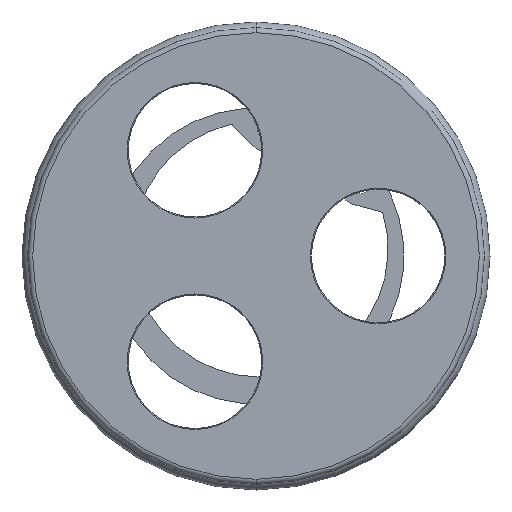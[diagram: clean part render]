
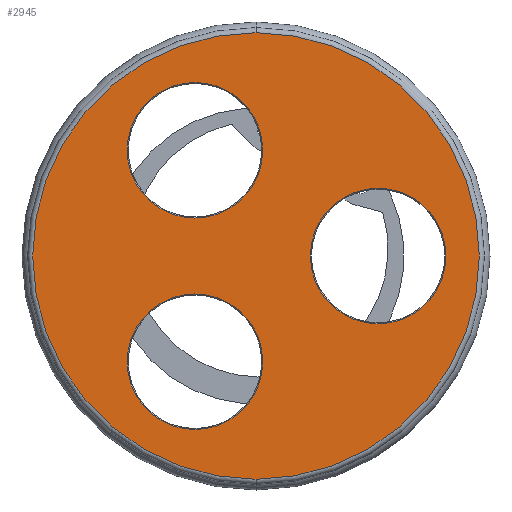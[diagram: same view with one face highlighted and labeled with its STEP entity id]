
A CAD part, front view. The second image highlights one B-rep face of the part: STEP entity #2945.
In plain terms, the highlighted planar face has unit normal (0, -1, 0).
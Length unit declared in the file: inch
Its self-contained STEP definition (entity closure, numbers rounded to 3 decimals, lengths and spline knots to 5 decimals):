
#21 = EDGE_LOOP ( 'NONE', ( #1878, #686 ) ) ;
#327 = ORIENTED_EDGE ( 'NONE', *, *, #2652, .T. ) ;
#336 = DIRECTION ( 'NONE',  ( 0., 0., 1. ) ) ;
#367 = CARTESIAN_POINT ( 'NONE',  ( 0., 0., -1.097 ) ) ;
#388 = CIRCLE ( 'NONE', #2034, 0.333 ) ;
#478 = EDGE_LOOP ( 'NONE', ( #2899, #327 ) ) ;
#495 = CIRCLE ( 'NONE', #3279, 0.333 ) ;
#523 = EDGE_CURVE ( 'NONE', #1397, #2032, #1524, .T. ) ;
#614 = EDGE_CURVE ( 'NONE', #1118, #1824, #2603, .T. ) ;
#673 = DIRECTION ( 'NONE',  ( 0., 0., 1. ) ) ;
#686 = ORIENTED_EDGE ( 'NONE', *, *, #3350, .T. ) ;
#696 = DIRECTION ( 'NONE',  ( 0., -1., 0. ) ) ;
#716 = CIRCLE ( 'NONE', #2226, 0.333 ) ;
#782 = EDGE_CURVE ( 'NONE', #3242, #3554, #3267, .T. ) ;
#804 = DIRECTION ( 'NONE',  ( 0., 1., 0. ) ) ;
#889 = FACE_BOUND ( 'NONE', #478, .T. ) ;
#919 = CARTESIAN_POINT ( 'NONE',  ( -0.3, 0., -0.18662 ) ) ;
#929 = FACE_BOUND ( 'NONE', #2126, .T. ) ;
#966 = DIRECTION ( 'NONE',  ( 0., 0., 1. ) ) ;
#977 = CARTESIAN_POINT ( 'NONE',  ( 0.6, 0., 0.333 ) ) ;
#978 = CIRCLE ( 'NONE', #2135, 0.333 ) ;
#985 = DIRECTION ( 'NONE',  ( 0., 0., 1. ) ) ;
#1005 = ORIENTED_EDGE ( 'NONE', *, *, #1032, .T. ) ;
#1032 = EDGE_CURVE ( 'NONE', #1824, #1118, #495, .T. ) ;
#1118 = VERTEX_POINT ( 'NONE', #2500 ) ;
#1241 = CARTESIAN_POINT ( 'NONE',  ( 0., 0., 1.097 ) ) ;
#1242 = ORIENTED_EDGE ( 'NONE', *, *, #1993, .T. ) ;
#1332 = PLANE ( 'NONE',  #2692 ) ;
#1397 = VERTEX_POINT ( 'NONE', #1241 ) ;
#1484 = DIRECTION ( 'NONE',  ( 0., 1., 0. ) ) ;
#1517 = CARTESIAN_POINT ( 'NONE',  ( 0.6, 0., 0. ) ) ;
#1524 = CIRCLE ( 'NONE', #2658, 1.097 ) ;
#1756 = AXIS2_PLACEMENT_3D ( 'NONE', #2845, #2588, #336 ) ;
#1820 = CARTESIAN_POINT ( 'NONE',  ( 0., 0., 0. ) ) ;
#1824 = VERTEX_POINT ( 'NONE', #919 ) ;
#1861 = FACE_BOUND ( 'NONE', #3423, .T. ) ;
#1878 = ORIENTED_EDGE ( 'NONE', *, *, #523, .T. ) ;
#1944 = CARTESIAN_POINT ( 'NONE',  ( 0., 0., 0. ) ) ;
#1946 = DIRECTION ( 'NONE',  ( 0., 0., 1. ) ) ;
#1962 = CARTESIAN_POINT ( 'NONE',  ( -0.3, 0., -0.51962 ) ) ;
#1979 = EDGE_CURVE ( 'NONE', #3519, #2847, #388, .T. ) ;
#1993 = EDGE_CURVE ( 'NONE', #3554, #3242, #716, .T. ) ;
#2032 = VERTEX_POINT ( 'NONE', #367 ) ;
#2034 = AXIS2_PLACEMENT_3D ( 'NONE', #2643, #1484, #2362 ) ;
#2126 = EDGE_LOOP ( 'NONE', ( #1242, #2206 ) ) ;
#2135 = AXIS2_PLACEMENT_3D ( 'NONE', #1517, #3536, #966 ) ;
#2181 = AXIS2_PLACEMENT_3D ( 'NONE', #3597, #2719, #3277 ) ;
#2206 = ORIENTED_EDGE ( 'NONE', *, *, #782, .T. ) ;
#2226 = AXIS2_PLACEMENT_3D ( 'NONE', #3525, #2653, #3248 ) ;
#2362 = DIRECTION ( 'NONE',  ( 0., 0., 1. ) ) ;
#2380 = CARTESIAN_POINT ( 'NONE',  ( -0.3, 0., -0.51962 ) ) ;
#2492 = FACE_OUTER_BOUND ( 'NONE', #21, .T. ) ;
#2493 = CARTESIAN_POINT ( 'NONE',  ( -0.3, 0., 0.18662 ) ) ;
#2500 = CARTESIAN_POINT ( 'NONE',  ( -0.3, 0., -0.85262 ) ) ;
#2588 = DIRECTION ( 'NONE',  ( 0., 1., 0. ) ) ;
#2603 = CIRCLE ( 'NONE', #2855, 0.333 ) ;
#2643 = CARTESIAN_POINT ( 'NONE',  ( 0.6, 0., 0. ) ) ;
#2652 = EDGE_CURVE ( 'NONE', #2847, #3519, #978, .T. ) ;
#2653 = DIRECTION ( 'NONE',  ( 0., 1., 0. ) ) ;
#2658 = AXIS2_PLACEMENT_3D ( 'NONE', #1820, #696, #985 ) ;
#2692 = AXIS2_PLACEMENT_3D ( 'NONE', #1944, #804, #3359 ) ;
#2719 = DIRECTION ( 'NONE',  ( 0., -1., 0. ) ) ;
#2769 = CARTESIAN_POINT ( 'NONE',  ( 0.6, 0., -0.333 ) ) ;
#2805 = ORIENTED_EDGE ( 'NONE', *, *, #614, .T. ) ;
#2845 = CARTESIAN_POINT ( 'NONE',  ( -0.3, 0., 0.51962 ) ) ;
#2847 = VERTEX_POINT ( 'NONE', #977 ) ;
#2855 = AXIS2_PLACEMENT_3D ( 'NONE', #1962, #3655, #1946 ) ;
#2899 = ORIENTED_EDGE ( 'NONE', *, *, #1979, .T. ) ;
#2942 = CARTESIAN_POINT ( 'NONE',  ( -0.3, 0., 0.85262 ) ) ;
#2945 = ADVANCED_FACE ( 'NONE', ( #889, #1861, #929, #2492 ), #1332, .F. ) ;
#3242 = VERTEX_POINT ( 'NONE', #2942 ) ;
#3248 = DIRECTION ( 'NONE',  ( 0., 0., 1. ) ) ;
#3258 = DIRECTION ( 'NONE',  ( 0., 1., 0. ) ) ;
#3267 = CIRCLE ( 'NONE', #1756, 0.333 ) ;
#3277 = DIRECTION ( 'NONE',  ( 0., 0., 1. ) ) ;
#3279 = AXIS2_PLACEMENT_3D ( 'NONE', #2380, #3258, #673 ) ;
#3350 = EDGE_CURVE ( 'NONE', #2032, #1397, #3527, .T. ) ;
#3359 = DIRECTION ( 'NONE',  ( 0., 0., 1. ) ) ;
#3423 = EDGE_LOOP ( 'NONE', ( #2805, #1005 ) ) ;
#3519 = VERTEX_POINT ( 'NONE', #2769 ) ;
#3525 = CARTESIAN_POINT ( 'NONE',  ( -0.3, 0., 0.51962 ) ) ;
#3527 = CIRCLE ( 'NONE', #2181, 1.097 ) ;
#3536 = DIRECTION ( 'NONE',  ( 0., 1., 0. ) ) ;
#3554 = VERTEX_POINT ( 'NONE', #2493 ) ;
#3597 = CARTESIAN_POINT ( 'NONE',  ( 0., 0., 0. ) ) ;
#3655 = DIRECTION ( 'NONE',  ( 0., 1., 0. ) ) ;
